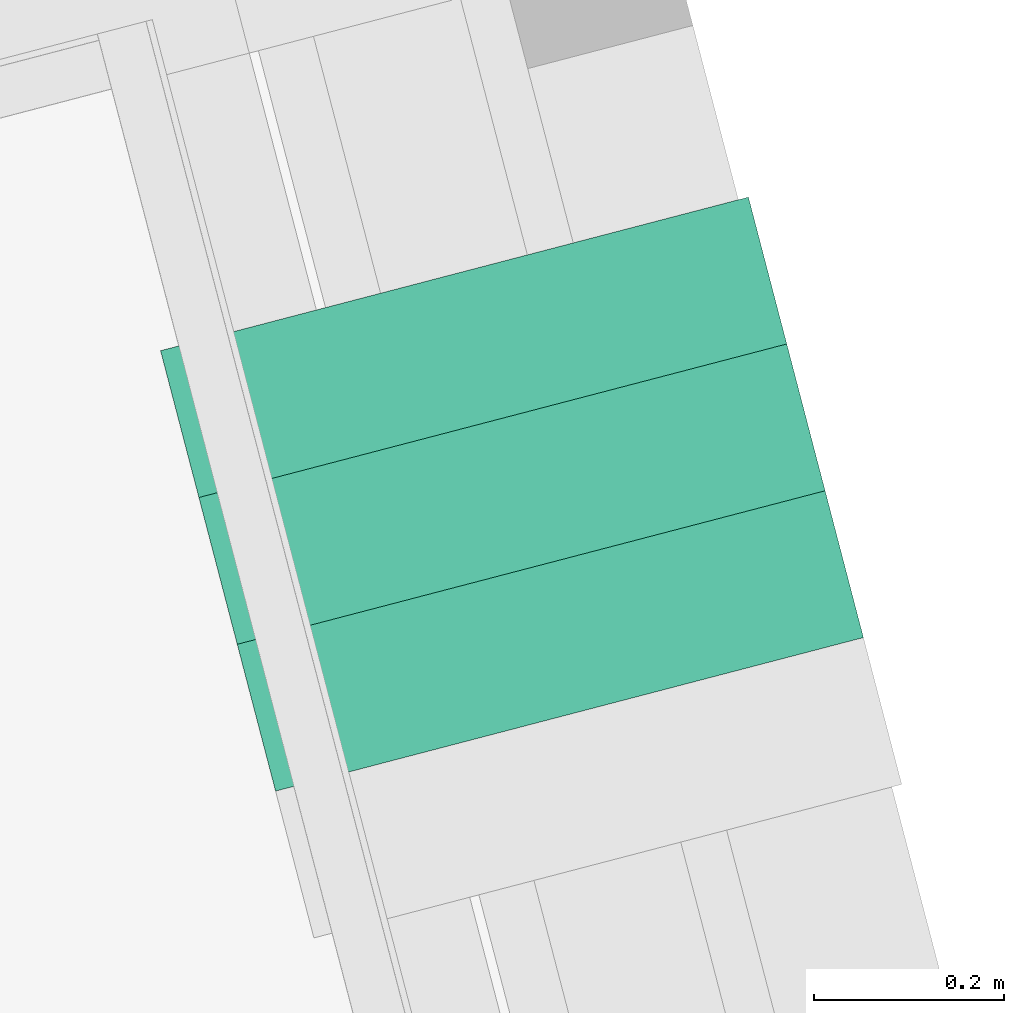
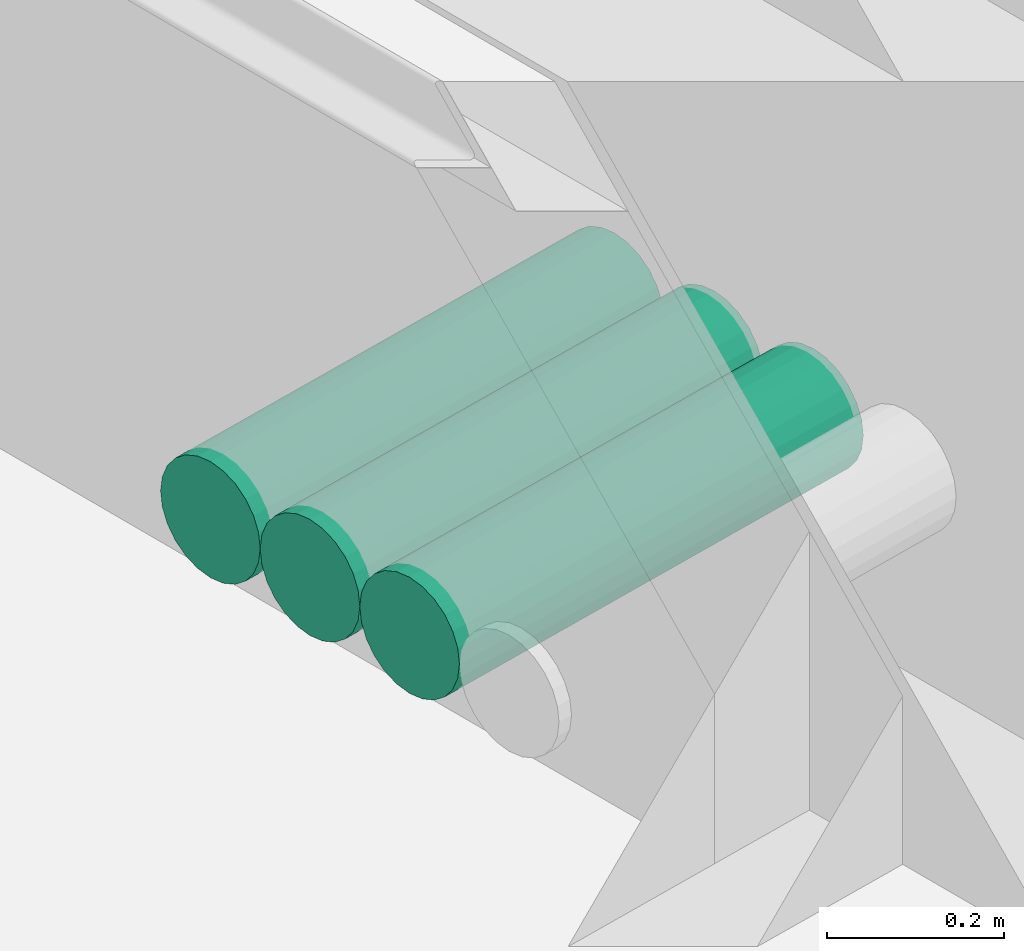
# One storey, part 27 of 29: 3 flow segments.
"""IFC2X3 building model written with IfcOpenShell, lengths in centimetres."""

from ifc_helpers import new_model, entity, si_unit, converted_unit, derived_unit, direction, frame, origin, place, context, subcontext, project, spatial, faceted_brep, type_object, element, save


model = new_model("IFC2X3")

# Units and contexts
model_context = context("Model", 3, precision=0.001, world=origin(), true_north=direction((6.12303176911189e-17, 1.0)))
body_context = subcontext(model_context, "Body", "Model", "MODEL_VIEW")
ifc_project = project(units=[si_unit("LENGTHUNIT", "METRE", prefix="CENTI"), si_unit("AREAUNIT", "SQUARE_METRE"), si_unit("VOLUMEUNIT", "CUBIC_METRE"), converted_unit("PLANEANGLEUNIT", "DEGREE", entity("IfcRatioMeasure", 0.0174532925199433), si_unit("PLANEANGLEUNIT", "RADIAN"), dimensions=[0, 0, 0, 0, 0, 0, 0]), si_unit("MASSUNIT", "GRAM", prefix="KILO"), derived_unit("MASSDENSITYUNIT", [(si_unit("MASSUNIT", "GRAM", prefix="KILO"), 1), (si_unit("LENGTHUNIT", "METRE"), -3)]), si_unit("TIMEUNIT", "SECOND"), si_unit("FREQUENCYUNIT", "HERTZ"), si_unit("THERMODYNAMICTEMPERATUREUNIT", "DEGREE_CELSIUS"), derived_unit("THERMALTRANSMITTANCEUNIT", [(si_unit("MASSUNIT", "GRAM", prefix="KILO"), 1), (si_unit("THERMODYNAMICTEMPERATUREUNIT", "KELVIN"), -1), (si_unit("TIMEUNIT", "SECOND"), -3)]), derived_unit("VOLUMETRICFLOWRATEUNIT", [(si_unit("LENGTHUNIT", "METRE"), 3), (si_unit("TIMEUNIT", "SECOND"), -1)]), si_unit("ELECTRICCURRENTUNIT", "AMPERE"), si_unit("ELECTRICVOLTAGEUNIT", "VOLT"), si_unit("POWERUNIT", "WATT"), si_unit("FORCEUNIT", "NEWTON"), si_unit("ILLUMINANCEUNIT", "LUX"), si_unit("LUMINOUSFLUXUNIT", "LUMEN"), si_unit("LUMINOUSINTENSITYUNIT", "CANDELA"), derived_unit("USERDEFINED", [(si_unit("MASSUNIT", "GRAM", prefix="KILO"), -1), (si_unit("LENGTHUNIT", "METRE"), -2), (si_unit("TIMEUNIT", "SECOND"), 3), (si_unit("LUMINOUSFLUXUNIT", "LUMEN"), 1)]), derived_unit("LINEARVELOCITYUNIT", [(si_unit("LENGTHUNIT", "METRE"), 1), (si_unit("TIMEUNIT", "SECOND"), -1)]), si_unit("PRESSUREUNIT", "PASCAL"), derived_unit("USERDEFINED", [(si_unit("LENGTHUNIT", "METRE"), -2), (si_unit("MASSUNIT", "GRAM", prefix="KILO"), 1), (si_unit("TIMEUNIT", "SECOND"), -2)])], contexts=[model_context])

# Site, building, storey
site_placement = place(None, origin())
site = spatial("IfcSite", under=ifc_project, at=site_placement, Name="Default", CompositionType="ELEMENT")
building_placement = place(site_placement, origin())
building = spatial("IfcBuilding", under=site, at=building_placement, Name="CAGE 03", CompositionType="ELEMENT")
storey_placement = place(building_placement, frame((0.0, 0.0, -34.0)))
storey = spatial("IfcBuildingStorey", under=building, at=storey_placement, Name="+3.66", CompositionType="ELEMENT", Elevation=-34.0000000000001)

# Flow segments
duct_segment_type = type_object("IfcDuctSegmentType", Name="Gaine flexible circulaire:Flex - Round", PredefinedType="FLEXIBLESEGMENT")
flow_segment_1_placement = place(storey_placement, frame((11575.1192899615, 3797.86634822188, -79.1595272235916)))
element("IfcFlowSegment", 1, at=flow_segment_1_placement, inside=storey, type_object=duct_segment_type, Name="Gaine flexible circulaire:Flex - Round", ObjectType="Gaine flexible circulaire:Flex - Round", context=body_context, shape_type="Brep", body=[
    faceted_brep([(0.228406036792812, 15.3765792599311, 10.2300795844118), (0.159527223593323, 15.6403269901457, 8.1595272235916), (0.228406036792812, 15.3765792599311, 6.08897486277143), (0.430348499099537, 14.6033100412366, 4.1595272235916), (0.751592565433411, 13.3732163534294, 2.50267297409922), (1.17024598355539, 11.7701270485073, 1.23132399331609), (1.65777821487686, 9.90329001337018, 0.432120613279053), (2.18096474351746, 7.89992710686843, 0.159527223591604), (2.70415127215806, 5.89656420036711, 0.432120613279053), (3.19168350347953, 4.02972716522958, 1.23132399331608), (3.61033692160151, 2.42663786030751, 2.50267297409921), (3.93158098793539, 1.19654417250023, 4.15952722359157), (4.13352345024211, 0.42327495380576, 6.08897486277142), (4.2024022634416, 0.159527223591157, 8.15952722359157), (4.13352345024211, 0.42327495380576, 10.2300795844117), (3.93158098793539, 1.19654417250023, 12.1595272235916), (3.61033692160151, 2.42663786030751, 13.816381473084), (3.19168350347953, 4.02972716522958, 15.0877304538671), (2.70415127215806, 5.89656420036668, 15.8869338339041), (2.18096474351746, 7.89992710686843, 16.1595272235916), (1.65777821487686, 9.90329001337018, 15.8869338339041), (1.17024598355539, 11.7701270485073, 15.0877304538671), (0.751592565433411, 13.3732163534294, 13.816381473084), (0.430348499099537, 14.6033100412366, 12.1595272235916), (31.2235574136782, 23.4710915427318, 6.08897486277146), (62.2187087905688, 31.565603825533, 6.08897486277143), (62.4206512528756, 30.7923346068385, 4.1595272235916), (31.4254998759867, 22.6978223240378, 4.1595272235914), (31.1546786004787, 23.7348392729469, 8.1595272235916), (62.1498299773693, 31.8293515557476, 8.1595272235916), (62.7418953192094, 29.5622409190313, 2.50267297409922), (31.7467439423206, 21.4677286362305, 2.50267297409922), (32.1653973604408, 19.864639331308, 1.23132399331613), (63.1605487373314, 27.9591516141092, 1.23132399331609), (63.6480809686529, 26.0923145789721, 0.432120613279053), (32.6529295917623, 17.9978022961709, 0.432120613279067), (64.1712674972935, 24.0889516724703, 0.159527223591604), (33.1761161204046, 15.9944393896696, 0.159527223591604), (64.6944540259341, 22.085588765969, 0.432120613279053), (33.6993026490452, 13.9910764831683, 0.432120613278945), (65.1819862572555, 20.2187517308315, 1.23132399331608), (34.1868348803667, 12.1242394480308, 1.23132399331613), (65.6006396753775, 18.6156624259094, 2.50267297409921), (34.6054882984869, 10.5211501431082, 2.50267297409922), (34.9267323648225, 9.2910564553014, 4.15952722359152), (65.9218837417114, 17.3855687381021, 4.15952722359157), (66.1238262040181, 16.6122995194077, 6.08897486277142), (35.1286748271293, 8.51778723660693, 6.08897486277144), (66.1927050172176, 16.3485517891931, 8.15952722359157), (35.1975536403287, 8.2540395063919, 8.15952722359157), (66.1238262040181, 16.6122995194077, 10.2300795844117), (35.1286748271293, 8.51778723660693, 10.2300795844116), (65.9218837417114, 17.3855687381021, 12.1595272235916), (34.9267323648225, 9.2910564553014, 12.1595272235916), (65.6006396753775, 18.6156624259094, 13.816381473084), (34.6054882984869, 10.5211501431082, 13.8163814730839), (34.1868348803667, 12.1242394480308, 15.087730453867), (65.1819862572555, 20.2187517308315, 15.0877304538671), (64.6944540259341, 22.0855887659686, 15.8869338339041), (33.6993026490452, 13.9910764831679, 15.8869338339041), (64.1712674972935, 24.0889516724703, 16.1595272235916), (33.1761161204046, 15.9944393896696, 16.1595272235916), (63.6480809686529, 26.0923145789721, 15.8869338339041), (32.6529295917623, 17.9978022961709, 15.8869338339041), (63.1605487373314, 27.9591516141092, 15.0877304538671), (32.1653973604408, 19.864639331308, 15.0877304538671), (62.7418953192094, 29.5622409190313, 13.816381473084), (31.7467439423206, 21.4677286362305, 13.816381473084), (31.4254998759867, 22.6978223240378, 12.1595272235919), (62.4206512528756, 30.7923346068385, 12.1595272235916), (62.2187087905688, 31.565603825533, 10.2300795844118), (31.2235574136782, 23.4710915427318, 10.2300795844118)], [[[0, 1, 2, 3, 4, 5, 6, 7, 8, 9, 10, 11, 12, 13, 14, 15, 16, 17, 18, 19, 20, 21, 22, 23]], [[24, 25, 26, 27, 3, 2]], [[28, 29, 25, 24, 2, 1]], [[27, 26, 30, 31, 4, 3]], [[6, 5, 32, 33, 34, 35]], [[7, 6, 35, 34, 36, 37]], [[31, 30, 33, 32, 5, 4]], [[8, 7, 37, 36, 38, 39]], [[9, 8, 39, 38, 40, 41]], [[41, 40, 42, 43, 10, 9]], [[12, 11, 44, 45, 46, 47]], [[13, 12, 47, 46, 48, 49]], [[43, 42, 45, 44, 11, 10]], [[14, 13, 49, 48, 50, 51]], [[15, 14, 51, 50, 52, 53]], [[53, 52, 54, 55, 16, 15]], [[18, 17, 56, 57, 58, 59]], [[19, 18, 59, 58, 60, 61]], [[55, 54, 57, 56, 17, 16]], [[20, 19, 61, 60, 62, 63]], [[21, 20, 63, 62, 64, 65]], [[65, 64, 66, 67, 22, 21]], [[0, 23, 68, 69, 70, 71]], [[1, 0, 71, 70, 29, 28]], [[67, 66, 69, 68, 23, 22]], [[69, 66, 64, 62, 60, 58, 57, 54, 52, 50, 48, 46, 45, 42, 40, 38, 36, 34, 33, 30, 26, 25, 29, 70]]]),
])
flow_segment_2_placement = place(storey_placement, frame((11571.0764149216, 3813.34714798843, -79.1595272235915)))
element("IfcFlowSegment", 2, at=flow_segment_2_placement, inside=storey, type_object=duct_segment_type, Name="Gaine flexible circulaire:Flex - Round", ObjectType="Gaine flexible circulaire:Flex - Round", context=body_context, shape_type="Brep", body=[
    faceted_brep([(0.228406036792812, 15.3765792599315, 10.2300795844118), (0.159527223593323, 15.6403269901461, 8.1595272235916), (0.228406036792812, 15.3765792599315, 6.08897486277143), (0.430348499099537, 14.6033100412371, 4.1595272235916), (0.751592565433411, 13.3732163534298, 2.50267297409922), (1.17024598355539, 11.7701270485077, 1.23132399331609), (1.65777821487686, 9.90329001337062, 0.432120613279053), (2.18096474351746, 7.89992710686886, 0.159527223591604), (2.70415127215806, 5.89656420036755, 0.432120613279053), (3.19168350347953, 4.02972716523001, 1.23132399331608), (3.61033692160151, 2.42663786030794, 2.50267297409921), (3.93158098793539, 1.19654417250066, 4.15952722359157), (4.13352345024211, 0.423274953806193, 6.08897486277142), (4.2024022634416, 0.15952722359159, 8.15952722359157), (4.13352345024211, 0.423274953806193, 10.2300795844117), (3.93158098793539, 1.19654417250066, 12.1595272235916), (3.61033692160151, 2.42663786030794, 13.816381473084), (3.19168350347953, 4.02972716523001, 15.0877304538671), (2.70415127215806, 5.89656420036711, 15.8869338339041), (2.18096474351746, 7.89992710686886, 16.1595272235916), (1.65777821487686, 9.90329001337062, 15.8869338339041), (1.17024598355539, 11.7701270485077, 15.0877304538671), (0.751592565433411, 13.3732163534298, 13.816381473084), (0.430348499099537, 14.6033100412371, 12.1595272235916), (31.22355741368, 23.4710915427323, 6.08897486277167), (62.2187087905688, 31.5656038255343, 6.08897486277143), (62.4206512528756, 30.7923346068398, 4.1595272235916), (31.4254998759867, 22.6978223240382, 4.1595272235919), (31.1546786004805, 23.7348392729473, 8.1595272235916), (62.1498299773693, 31.8293515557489, 8.1595272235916), (62.7418953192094, 29.5622409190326, 2.50267297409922), (31.7467439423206, 21.467728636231, 2.50267297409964), (32.1653973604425, 19.8646393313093, 1.2313239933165), (63.1605487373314, 27.9591516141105, 1.23132399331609), (63.6480809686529, 26.092314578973, 0.432120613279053), (32.652929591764, 17.9978022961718, 0.432120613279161), (64.1712674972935, 24.0889516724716, 0.159527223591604), (33.1761161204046, 15.9944393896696, 0.159527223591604), (64.6944540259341, 22.0855887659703, 0.432120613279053), (33.6993026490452, 13.9910764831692, 0.432120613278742), (65.1819862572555, 20.2187517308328, 1.23132399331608), (34.1868348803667, 12.1242394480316, 1.23132399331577), (65.6006396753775, 18.6156624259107, 2.50267297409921), (34.6054882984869, 10.5211501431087, 2.5026729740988), (34.9267323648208, 9.2910564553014, 4.15952722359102), (65.9218837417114, 17.3855687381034, 4.15952722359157), (66.1238262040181, 16.612299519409, 6.08897486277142), (35.1286748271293, 8.51778723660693, 6.08897486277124), (66.1927050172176, 16.3485517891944, 8.15952722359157), (35.1975536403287, 8.2540395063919, 8.15952722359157), (66.1238262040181, 16.612299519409, 10.2300795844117), (35.1286748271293, 8.51778723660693, 10.2300795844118), (65.9218837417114, 17.3855687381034, 12.1595272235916), (34.9267323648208, 9.29105645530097, 12.1595272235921), (65.6006396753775, 18.6156624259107, 13.816381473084), (34.6054882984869, 10.5211501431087, 13.8163814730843), (34.1868348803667, 12.1242394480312, 15.0877304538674), (65.1819862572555, 20.2187517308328, 15.0877304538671), (64.6944540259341, 22.0855887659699, 15.8869338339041), (33.6993026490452, 13.9910764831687, 15.8869338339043), (64.1712674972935, 24.0889516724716, 16.1595272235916), (33.1761161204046, 15.9944393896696, 16.1595272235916), (63.6480809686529, 26.092314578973, 15.8869338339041), (32.652929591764, 17.9978022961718, 15.886933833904), (63.1605487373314, 27.9591516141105, 15.0877304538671), (32.1653973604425, 19.8646393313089, 15.0877304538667), (62.7418953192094, 29.5622409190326, 13.816381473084), (31.7467439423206, 21.467728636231, 13.8163814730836), (31.4254998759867, 22.6978223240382, 12.1595272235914), (62.4206512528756, 30.7923346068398, 12.1595272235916), (62.2187087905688, 31.5656038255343, 10.2300795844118), (31.22355741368, 23.4710915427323, 10.2300795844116)], [[[0, 1, 2, 3, 4, 5, 6, 7, 8, 9, 10, 11, 12, 13, 14, 15, 16, 17, 18, 19, 20, 21, 22, 23]], [[24, 25, 26, 27, 3, 2]], [[28, 29, 25, 24, 2, 1]], [[27, 26, 30, 31, 4, 3]], [[6, 5, 32, 33, 34, 35]], [[7, 6, 35, 34, 36, 37]], [[31, 30, 33, 32, 5, 4]], [[8, 7, 37, 36, 38, 39]], [[9, 8, 39, 38, 40, 41]], [[41, 40, 42, 43, 10, 9]], [[12, 11, 44, 45, 46, 47]], [[13, 12, 47, 46, 48, 49]], [[43, 42, 45, 44, 11, 10]], [[14, 13, 49, 48, 50, 51]], [[15, 14, 51, 50, 52, 53]], [[53, 52, 54, 55, 16, 15]], [[18, 17, 56, 57, 58, 59]], [[19, 18, 59, 58, 60, 61]], [[55, 54, 57, 56, 17, 16]], [[20, 19, 61, 60, 62, 63]], [[21, 20, 63, 62, 64, 65]], [[65, 64, 66, 67, 22, 21]], [[0, 23, 68, 69, 70, 71]], [[1, 0, 71, 70, 29, 28]], [[67, 66, 69, 68, 23, 22]], [[69, 66, 64, 62, 60, 58, 57, 54, 52, 50, 48, 46, 45, 42, 40, 38, 36, 34, 33, 30, 26, 25, 29, 70]]]),
])
flow_segment_3_placement = place(storey_placement, frame((11567.0335398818, 3828.82794775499, -79.1595272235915)))
element("IfcFlowSegment", 3, at=flow_segment_3_placement, inside=storey, type_object=duct_segment_type, Name="Gaine flexible circulaire:Flex - Round", ObjectType="Gaine flexible circulaire:Flex - Round", context=body_context, shape_type="Brep", body=[
    faceted_brep([(0.228406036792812, 15.3765792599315, 10.2300795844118), (0.159527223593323, 15.6403269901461, 8.1595272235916), (0.228406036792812, 15.3765792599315, 6.08897486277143), (0.430348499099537, 14.6033100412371, 4.1595272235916), (0.751592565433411, 13.3732163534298, 2.50267297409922), (1.17024598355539, 11.7701270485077, 1.23132399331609), (1.65777821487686, 9.90329001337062, 0.432120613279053), (2.18096474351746, 7.89992710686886, 0.159527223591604), (2.70415127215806, 5.89656420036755, 0.432120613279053), (3.19168350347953, 4.02972716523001, 1.23132399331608), (3.61033692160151, 2.42663786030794, 2.50267297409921), (3.93158098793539, 1.19654417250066, 4.15952722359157), (4.13352345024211, 0.423274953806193, 6.08897486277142), (4.2024022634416, 0.15952722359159, 8.15952722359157), (4.13352345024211, 0.423274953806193, 10.2300795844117), (3.93158098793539, 1.19654417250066, 12.1595272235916), (3.61033692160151, 2.42663786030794, 13.816381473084), (3.19168350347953, 4.02972716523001, 15.0877304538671), (2.70415127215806, 5.89656420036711, 15.8869338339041), (2.18096474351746, 7.89992710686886, 16.1595272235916), (1.65777821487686, 9.90329001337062, 15.8869338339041), (1.17024598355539, 11.7701270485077, 15.0877304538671), (0.751592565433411, 13.3732163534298, 13.816381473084), (0.430348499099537, 14.6033100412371, 12.1595272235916), (31.22355741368, 23.4710915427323, 6.08897486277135), (62.2187087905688, 31.565603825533, 6.08897486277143), (62.4206512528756, 30.7923346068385, 4.1595272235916), (31.4254998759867, 22.6978223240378, 4.15952722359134), (31.1546786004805, 23.7348392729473, 8.1595272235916), (62.1498299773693, 31.8293515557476, 8.1595272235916), (62.7418953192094, 29.5622409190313, 2.50267297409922), (31.7467439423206, 21.4677286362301, 2.50267297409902), (32.1653973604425, 19.864639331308, 1.23132399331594), (63.1605487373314, 27.9591516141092, 1.23132399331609), (63.6480809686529, 26.0923145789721, 0.432120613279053), (32.652929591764, 17.9978022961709, 0.432120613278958), (64.1712674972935, 24.0889516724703, 0.159527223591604), (33.1761161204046, 15.9944393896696, 0.159527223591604), (64.6944540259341, 22.085588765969, 0.432120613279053), (33.6993026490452, 13.9910764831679, 0.432120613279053), (65.1819862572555, 20.2187517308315, 1.23132399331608), (34.1868348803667, 12.1242394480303, 1.23132399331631), (65.6006396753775, 18.6156624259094, 2.50267297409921), (34.6054882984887, 10.5211501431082, 2.50267297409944), (34.9267323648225, 9.2910564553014, 4.15952722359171), (65.9218837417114, 17.3855687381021, 4.15952722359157), (66.1238262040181, 16.6122995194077, 6.08897486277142), (35.1286748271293, 8.51778723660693, 6.08897486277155), (66.1927050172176, 16.3485517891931, 8.15952722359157), (35.1975536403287, 8.2540395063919, 8.15952722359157), (66.1238262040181, 16.6122995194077, 10.2300795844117), (35.1286748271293, 8.51778723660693, 10.2300795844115), (65.9218837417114, 17.3855687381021, 12.1595272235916), (34.9267323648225, 9.29105645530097, 12.1595272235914), (65.6006396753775, 18.6156624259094, 13.816381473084), (34.6054882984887, 10.5211501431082, 13.8163814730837), (34.1868348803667, 12.1242394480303, 15.0877304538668), (65.1819862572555, 20.2187517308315, 15.0877304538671), (64.6944540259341, 22.0855887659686, 15.8869338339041), (33.6993026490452, 13.9910764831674, 15.886933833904), (64.1712674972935, 24.0889516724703, 16.1595272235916), (33.1761161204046, 15.9944393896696, 16.1595272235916), (63.6480809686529, 26.0923145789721, 15.8869338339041), (32.652929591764, 17.9978022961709, 15.8869338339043), (63.1605487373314, 27.9591516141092, 15.0877304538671), (32.1653973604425, 19.864639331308, 15.0877304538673), (62.7418953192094, 29.5622409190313, 13.816381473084), (31.7467439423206, 21.4677286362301, 13.8163814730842), (31.4254998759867, 22.6978223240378, 12.1595272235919), (62.4206512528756, 30.7923346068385, 12.1595272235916), (62.2187087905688, 31.565603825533, 10.2300795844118), (31.22355741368, 23.4710915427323, 10.2300795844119)], [[[0, 1, 2, 3, 4, 5, 6, 7, 8, 9, 10, 11, 12, 13, 14, 15, 16, 17, 18, 19, 20, 21, 22, 23]], [[24, 25, 26, 27, 3, 2]], [[28, 29, 25, 24, 2, 1]], [[27, 26, 30, 31, 4, 3]], [[6, 5, 32, 33, 34, 35]], [[7, 6, 35, 34, 36, 37]], [[31, 30, 33, 32, 5, 4]], [[8, 7, 37, 36, 38, 39]], [[9, 8, 39, 38, 40, 41]], [[41, 40, 42, 43, 10, 9]], [[12, 11, 44, 45, 46, 47]], [[13, 12, 47, 46, 48, 49]], [[43, 42, 45, 44, 11, 10]], [[14, 13, 49, 48, 50, 51]], [[15, 14, 51, 50, 52, 53]], [[53, 52, 54, 55, 16, 15]], [[18, 17, 56, 57, 58, 59]], [[19, 18, 59, 58, 60, 61]], [[55, 54, 57, 56, 17, 16]], [[20, 19, 61, 60, 62, 63]], [[21, 20, 63, 62, 64, 65]], [[65, 64, 66, 67, 22, 21]], [[0, 23, 68, 69, 70, 71]], [[1, 0, 71, 70, 29, 28]], [[67, 66, 69, 68, 23, 22]], [[69, 66, 64, 62, 60, 58, 57, 54, 52, 50, 48, 46, 45, 42, 40, 38, 36, 34, 33, 30, 26, 25, 29, 70]]]),
])

save(model, "model.ifc")
